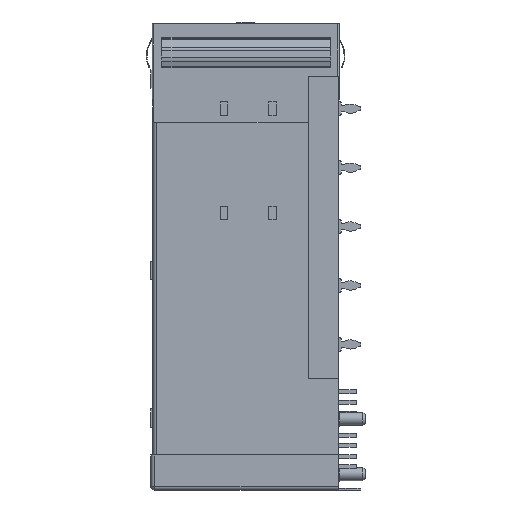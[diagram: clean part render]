
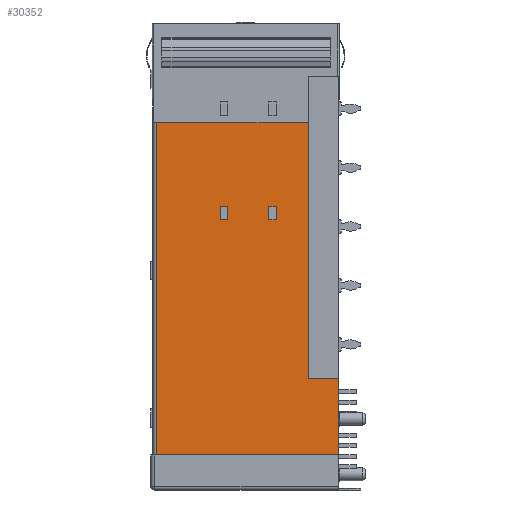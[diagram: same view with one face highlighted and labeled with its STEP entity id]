
A CAD part, left-side view. The second image highlights one B-rep face of the part: STEP entity #30352.
In plain terms, the highlighted planar face has unit normal (-1, 0, 0).
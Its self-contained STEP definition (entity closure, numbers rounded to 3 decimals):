
#17 = CARTESIAN_POINT ( 'NONE',  ( -14.375, 16., -24.8 ) ) ;
#76 = LINE ( 'NONE', #1529, #11241 ) ;
#571 = VECTOR ( 'NONE', #30319, 1000. ) ;
#1350 = VECTOR ( 'NONE', #37587, 1000. ) ;
#1458 = EDGE_CURVE ( 'NONE', #20021, #19799, #7691, .T. ) ;
#1529 = CARTESIAN_POINT ( 'NONE',  ( -14.375, 16., -24.8 ) ) ;
#2087 = CARTESIAN_POINT ( 'NONE',  ( -14.375, 0., -58.5 ) ) ;
#2176 = CARTESIAN_POINT ( 'NONE',  ( -14.375, 9.45, -24.8 ) ) ;
#2447 = DIRECTION ( 'NONE',  ( 0., 1., 0. ) ) ;
#2454 = EDGE_CURVE ( 'NONE', #24607, #17442, #31809, .T. ) ;
#2494 = VECTOR ( 'NONE', #24872, 1000. ) ;
#2785 = VERTEX_POINT ( 'NONE', #4048 ) ;
#2799 = VECTOR ( 'NONE', #30546, 1000. ) ;
#3442 = CARTESIAN_POINT ( 'NONE',  ( -14.375, 0., -63.25 ) ) ;
#3475 = EDGE_LOOP ( 'NONE', ( #36477, #23436, #29732, #12575 ) ) ;
#3574 = DIRECTION ( 'NONE',  ( 0., 0., 1. ) ) ;
#3668 = VECTOR ( 'NONE', #4820, 1000. ) ;
#3918 = DIRECTION ( 'NONE',  ( 0., 0., 1. ) ) ;
#4048 = CARTESIAN_POINT ( 'NONE',  ( -14.375, 4.1, -48.1 ) ) ;
#4527 = VERTEX_POINT ( 'NONE', #19876 ) ;
#4631 = VERTEX_POINT ( 'NONE', #21013 ) ;
#4820 = DIRECTION ( 'NONE',  ( 0., 0., 1. ) ) ;
#5214 = CARTESIAN_POINT ( 'NONE',  ( -14.375, 8.45, -24.8 ) ) ;
#5316 = CARTESIAN_POINT ( 'NONE',  ( -14.375, 9.45, -26.6 ) ) ;
#5602 = CARTESIAN_POINT ( 'NONE',  ( -14.375, 24.7, -13.4 ) ) ;
#5639 = ORIENTED_EDGE ( 'NONE', *, *, #7909, .T. ) ;
#5897 = LINE ( 'NONE', #37402, #7776 ) ;
#6832 = ORIENTED_EDGE ( 'NONE', *, *, #1458, .F. ) ;
#6948 = EDGE_CURVE ( 'NONE', #34959, #21746, #19258, .T. ) ;
#6970 = VERTEX_POINT ( 'NONE', #19748 ) ;
#7343 = VECTOR ( 'NONE', #20414, 1000. ) ;
#7455 = ORIENTED_EDGE ( 'NONE', *, *, #20246, .T. ) ;
#7460 = ORIENTED_EDGE ( 'NONE', *, *, #6948, .T. ) ;
#7587 = LINE ( 'NONE', #8684, #32711 ) ;
#7691 = LINE ( 'NONE', #8583, #8636 ) ;
#7776 = VECTOR ( 'NONE', #31491, 1000. ) ;
#7909 = EDGE_CURVE ( 'NONE', #17442, #4631, #26113, .T. ) ;
#8286 = ORIENTED_EDGE ( 'NONE', *, *, #21548, .T. ) ;
#8467 = CARTESIAN_POINT ( 'NONE',  ( -14.375, 24.7, -58.5 ) ) ;
#8583 = CARTESIAN_POINT ( 'NONE',  ( -14.375, 25.2, -13.4 ) ) ;
#8636 = VECTOR ( 'NONE', #32512, 1000. ) ;
#8684 = CARTESIAN_POINT ( 'NONE',  ( -14.375, 8.45, -24.8 ) ) ;
#9696 = PLANE ( 'NONE',  #24962 ) ;
#9840 = EDGE_CURVE ( 'NONE', #22453, #30089, #33437, .T. ) ;
#10031 = CARTESIAN_POINT ( 'NONE',  ( -14.375, 4.1, -7.1 ) ) ;
#11208 = VECTOR ( 'NONE', #24821, 1000. ) ;
#11241 = VECTOR ( 'NONE', #22680, 1000. ) ;
#11843 = VECTOR ( 'NONE', #2447, 1000. ) ;
#12575 = ORIENTED_EDGE ( 'NONE', *, *, #9840, .T. ) ;
#12680 = CARTESIAN_POINT ( 'NONE',  ( -14.375, 24.7, -63.25 ) ) ;
#12815 = DIRECTION ( 'NONE',  ( -1., 0., 0. ) ) ;
#13429 = CARTESIAN_POINT ( 'NONE',  ( -14.375, 15., -26.6 ) ) ;
#14000 = LINE ( 'NONE', #15884, #11208 ) ;
#14098 = EDGE_LOOP ( 'NONE', ( #17276, #7455, #7460, #17552 ) ) ;
#15382 = EDGE_LOOP ( 'NONE', ( #6832, #32732, #37403, #5639, #8286, #33558 ) ) ;
#15884 = CARTESIAN_POINT ( 'NONE',  ( -14.375, 15., -24.8 ) ) ;
#16107 = LINE ( 'NONE', #5316, #19367 ) ;
#17276 = ORIENTED_EDGE ( 'NONE', *, *, #19261, .T. ) ;
#17442 = VERTEX_POINT ( 'NONE', #2087 ) ;
#17552 = ORIENTED_EDGE ( 'NONE', *, *, #35126, .T. ) ;
#18522 = CARTESIAN_POINT ( 'NONE',  ( -14.375, 4.1, -13.4 ) ) ;
#19258 = LINE ( 'NONE', #28940, #11843 ) ;
#19261 = EDGE_CURVE ( 'NONE', #4527, #23985, #76, .T. ) ;
#19367 = VECTOR ( 'NONE', #20044, 1000. ) ;
#19551 = LINE ( 'NONE', #10031, #2799 ) ;
#19748 = CARTESIAN_POINT ( 'NONE',  ( -14.375, 8.45, -26.6 ) ) ;
#19799 = VERTEX_POINT ( 'NONE', #18522 ) ;
#19876 = CARTESIAN_POINT ( 'NONE',  ( -14.375, 16., -24.8 ) ) ;
#20021 = VERTEX_POINT ( 'NONE', #5602 ) ;
#20044 = DIRECTION ( 'NONE',  ( 0., 1., 0. ) ) ;
#20246 = EDGE_CURVE ( 'NONE', #23985, #34959, #14000, .T. ) ;
#20287 = EDGE_CURVE ( 'NONE', #2785, #19799, #19551, .T. ) ;
#20414 = DIRECTION ( 'NONE',  ( 0., 0., 1. ) ) ;
#20510 = DIRECTION ( 'NONE',  ( 0., 0., -1. ) ) ;
#21013 = CARTESIAN_POINT ( 'NONE',  ( -14.375, 0., -48.1 ) ) ;
#21548 = EDGE_CURVE ( 'NONE', #4631, #2785, #5897, .T. ) ;
#21661 = FACE_OUTER_BOUND ( 'NONE', #15382, .T. ) ;
#21746 = VERTEX_POINT ( 'NONE', #37658 ) ;
#21890 = CARTESIAN_POINT ( 'NONE',  ( -14.375, 25.2, -58.5 ) ) ;
#21949 = VECTOR ( 'NONE', #3918, 1000. ) ;
#22453 = VERTEX_POINT ( 'NONE', #27627 ) ;
#22614 = CARTESIAN_POINT ( 'NONE',  ( -14.375, 9.45, -24.8 ) ) ;
#22680 = DIRECTION ( 'NONE',  ( 0., -1., 0. ) ) ;
#23174 = LINE ( 'NONE', #17, #7343 ) ;
#23436 = ORIENTED_EDGE ( 'NONE', *, *, #38505, .T. ) ;
#23524 = FACE_BOUND ( 'NONE', #3475, .T. ) ;
#23985 = VERTEX_POINT ( 'NONE', #26939 ) ;
#24607 = VERTEX_POINT ( 'NONE', #8467 ) ;
#24821 = DIRECTION ( 'NONE',  ( 0., 0., -1. ) ) ;
#24872 = DIRECTION ( 'NONE',  ( 0., -1., 0. ) ) ;
#24962 = AXIS2_PLACEMENT_3D ( 'NONE', #3442, #12815, #3574 ) ;
#25491 = LINE ( 'NONE', #2176, #1350 ) ;
#26113 = LINE ( 'NONE', #27431, #21949 ) ;
#26146 = VERTEX_POINT ( 'NONE', #5214 ) ;
#26939 = CARTESIAN_POINT ( 'NONE',  ( -14.375, 15., -24.8 ) ) ;
#27431 = CARTESIAN_POINT ( 'NONE',  ( -14.375, 0., -63.25 ) ) ;
#27507 = LINE ( 'NONE', #12680, #571 ) ;
#27627 = CARTESIAN_POINT ( 'NONE',  ( -14.375, 9.45, -26.6 ) ) ;
#28480 = EDGE_CURVE ( 'NONE', #30089, #26146, #25491, .T. ) ;
#28940 = CARTESIAN_POINT ( 'NONE',  ( -14.375, 16., -26.6 ) ) ;
#29568 = FACE_BOUND ( 'NONE', #14098, .T. ) ;
#29732 = ORIENTED_EDGE ( 'NONE', *, *, #36756, .T. ) ;
#30089 = VERTEX_POINT ( 'NONE', #36677 ) ;
#30319 = DIRECTION ( 'NONE',  ( 0., 0., -1. ) ) ;
#30352 = ADVANCED_FACE ( 'NONE', ( #23524, #29568, #21661 ), #9696, .T. ) ;
#30546 = DIRECTION ( 'NONE',  ( 0., 0., 1. ) ) ;
#31491 = DIRECTION ( 'NONE',  ( 0., 1., 0. ) ) ;
#31809 = LINE ( 'NONE', #21890, #2494 ) ;
#32512 = DIRECTION ( 'NONE',  ( 0., -1., 0. ) ) ;
#32711 = VECTOR ( 'NONE', #20510, 1000. ) ;
#32720 = EDGE_CURVE ( 'NONE', #20021, #24607, #27507, .T. ) ;
#32732 = ORIENTED_EDGE ( 'NONE', *, *, #32720, .T. ) ;
#33437 = LINE ( 'NONE', #22614, #3668 ) ;
#33558 = ORIENTED_EDGE ( 'NONE', *, *, #20287, .T. ) ;
#34959 = VERTEX_POINT ( 'NONE', #13429 ) ;
#35126 = EDGE_CURVE ( 'NONE', #21746, #4527, #23174, .T. ) ;
#36477 = ORIENTED_EDGE ( 'NONE', *, *, #28480, .T. ) ;
#36677 = CARTESIAN_POINT ( 'NONE',  ( -14.375, 9.45, -24.8 ) ) ;
#36756 = EDGE_CURVE ( 'NONE', #6970, #22453, #16107, .T. ) ;
#37402 = CARTESIAN_POINT ( 'NONE',  ( -14.375, 0., -48.1 ) ) ;
#37403 = ORIENTED_EDGE ( 'NONE', *, *, #2454, .T. ) ;
#37587 = DIRECTION ( 'NONE',  ( 0., -1., 0. ) ) ;
#37658 = CARTESIAN_POINT ( 'NONE',  ( -14.375, 16., -26.6 ) ) ;
#38505 = EDGE_CURVE ( 'NONE', #26146, #6970, #7587, .T. ) ;
